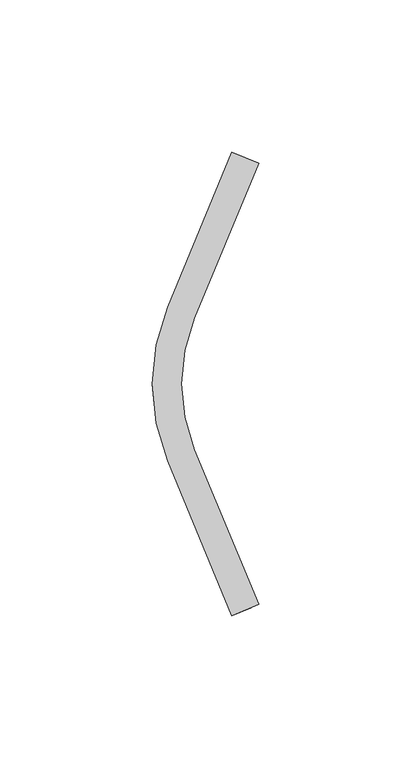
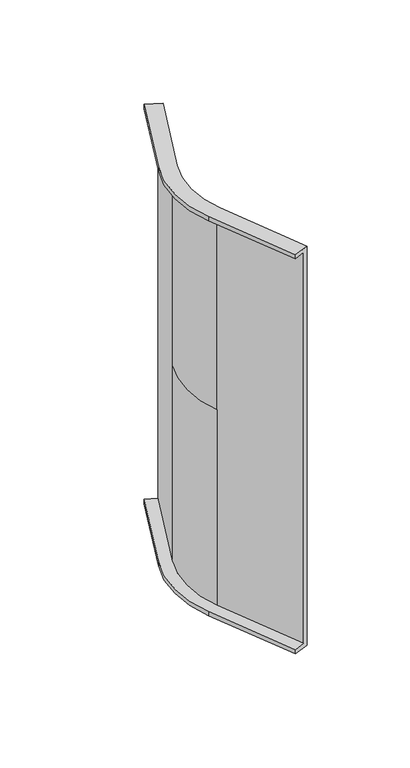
"""IFC4 building model written with IfcOpenShell, lengths in millimetres: cable carrier fitting geometry, CCT_Hyperline_FBTR-IRS45-CVR Крышка на вертикальный угол 45° внутренний (вверх) для оптического лотка : Крышка на вертикальный угол 45° внутренний (вверх) для оптического лотка."""

from ifc_helpers import new_model, si_unit, frame, origin, place, context, project, spatial, polyline, circle_curve, source, transform, mapped, element, save
from ifc_brep_helpers import plane_surface, cylinder_surface, revolved_surface, advanced_brep


def cable_carrier_fitting_1e9d4b74(model_context):
    return source(origin(), model_context, "Body", "AdvancedBrep", [
        advanced_brep(
        [(117.653346, 73.3916968, 120.0), (111.1861893, 76.0704808, 120.0), (111.1861893, 76.0704808, 122.54), (120.0, 72.4196809, 122.54), (120.0, 72.4196809, -122.54), (111.1861893, 76.0704808, -122.54), (111.1861893, 76.0704808, -120.0), (117.653346, 73.3916968, -120.0), (90.1386005, 25.2571065, -120.0), (90.1386005, -25.2571065, -120.0), (111.1861893, -76.0704808, -120.0), (117.653346, -73.3916968, -120.0), (96.6057572, -22.5783225, -120.0), (96.6057572, 22.5783225, -120.0), (90.1386005, 25.2571065, -122.54), (98.9524112, 21.6063066, -122.54), (98.9524112, -21.6063066, -122.54), (120.0, -72.4196809, -122.54), (111.1861893, -76.0704808, -122.54), (90.1386005, -25.2571065, -122.54), (98.9524112, 21.6063066, 122.54), (98.9524112, 21.6063066, 0.0), (96.6057572, 22.5783225, 0.0), (96.6057572, 22.5783225, 120.0), (120.0, -72.4196809, 122.54), (111.1861893, -76.0704808, 122.54), (111.1861893, -76.0704808, 120.0), (117.653346, -73.3916968, 120.0), (98.9524112, -21.6063066, 0.0), (96.6057572, -22.5783225, 0.0), (98.9524112, -21.6063066, 122.54), (96.6057572, -22.5783225, 120.0), (90.1386005, -25.2571065, 120.0), (90.1386005, 25.2571065, 120.0), (90.1386005, 25.2571065, 122.54), (90.1386005, -25.2571065, 122.54)],
        [
            (0, 1),
            (1, 2),
            (2, 3),
            (3, 4),
            (4, 5),
            (5, 6),
            (6, 7),
            (7, 0),
            (6, 8),
            (8, 9, circle_curve(frame((151.1146496, 0.0, -120.0), z_axis=(0.0, 0.0, 1.0), x_axis=(-0.9238795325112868, 0.38268343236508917, 0.0)), 66.0)),
            (9, 10),
            (10, 11),
            (11, 12),
            (12, 13, circle_curve(frame((151.1146496, 0.0, -120.0), z_axis=(0.0, 0.0, -1.0), x_axis=(-0.9238795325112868, 0.38268343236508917, 0.0)), 59.0)),
            (13, 7),
            (5, 14),
            (14, 8),
            (4, 15),
            (15, 16, circle_curve(frame((151.1146496, 0.0, -122.54), z_axis=(0.0, 0.0, 1.0), x_axis=(-0.9238795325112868, 0.38268343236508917, 0.0)), 56.46)),
            (16, 17),
            (17, 18),
            (18, 19),
            (19, 14, circle_curve(frame((151.1146496, 0.0, -122.54), z_axis=(0.0, 0.0, -1.0), x_axis=(-0.9238795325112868, 0.38268343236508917, 0.0)), 66.0)),
            (3, 20),
            (20, 21),
            (21, 15),
            (13, 22),
            (22, 23),
            (23, 0),
            (10, 18),
            (17, 24),
            (24, 25),
            (25, 26),
            (26, 27),
            (27, 11),
            (19, 9),
            (21, 28, circle_curve(frame((151.1146496, 0.0, 0.0), z_axis=(0.0, 0.0, 1.0), x_axis=(-0.9238795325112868, 0.38268343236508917, 0.0)), 56.46)),
            (28, 16),
            (12, 29),
            (29, 22, circle_curve(frame((151.1146496, 0.0, 0.0), z_axis=(0.0, 0.0, -1.0), x_axis=(-0.9238795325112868, 0.38268343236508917, 0.0)), 59.0)),
            (28, 30),
            (30, 24),
            (27, 31),
            (31, 29),
            (23, 31, circle_curve(frame((151.1146496, 0.0, 120.0), z_axis=(0.0, 0.0, 1.0), x_axis=(-0.9238795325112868, 0.38268343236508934, 0.0)), 59.0)),
            (26, 32),
            (32, 33, circle_curve(frame((151.1146496, 0.0, 120.0), z_axis=(0.0, 0.0, -1.0), x_axis=(-0.9238795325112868, 0.38268343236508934, 0.0)), 66.0)),
            (33, 1),
            (33, 34),
            (34, 2),
            (34, 35, circle_curve(frame((151.1146496, 0.0, 122.54), z_axis=(0.0, 0.0, 1.0), x_axis=(-0.9238795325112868, 0.38268343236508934, 0.0)), 66.0)),
            (35, 25),
            (30, 20, circle_curve(frame((151.1146496, 0.0, 122.54), z_axis=(0.0, 0.0, -1.0), x_axis=(-0.9238795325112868, 0.38268343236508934, 0.0)), 56.46)),
            (32, 35),
        ],
        [
            plane_surface(frame((115.8055869, 74.1570637, -55.0), z_axis=(0.38268343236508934, 0.923879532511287, 0.0), x_axis=(0.0, 0.0, 1.0))),
            plane_surface(frame((111.1861893, 76.0704808, -120.0), z_axis=(0.0, 0.0, 1.0), x_axis=(-0.3826834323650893, -0.923879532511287, 0.0))),
            plane_surface(frame((111.1861893, 76.0704808, -122.54), z_axis=(-0.923879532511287, 0.3826834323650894, 0.0), x_axis=(-0.3826834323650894, -0.923879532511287, 0.0))),
            plane_surface(frame((120.0, 72.4196809, -122.54), z_axis=(0.0, 0.0, -1.0), x_axis=(-0.38268343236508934, -0.923879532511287, 0.0))),
            plane_surface(frame((120.0, 72.4196809, 0.0), z_axis=(0.923879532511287, -0.3826834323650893, 0.0), x_axis=(-0.3826834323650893, -0.923879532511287, 0.0))),
            plane_surface(frame((117.653346, 73.3916968, -120.0), z_axis=(-0.923879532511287, 0.3826834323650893, 0.0), x_axis=(-0.3826834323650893, -0.923879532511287, 0.0))),
            plane_surface(frame((115.8055869, -74.1570637, -55.0), z_axis=(0.38268343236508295, -0.9238795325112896, 0.0), x_axis=(0.0, 0.0, 1.0))),
            cylinder_surface(frame((151.1146496, 0.0, -55.0), z_axis=(0.0, 0.0, 1.0), x_axis=(-0.9238795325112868, 0.38268343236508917, 0.0)), 66.0),
            revolved_surface(polyline([(98.95241119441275, 21.606306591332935, 0.0), (98.95241119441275, 21.606306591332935, -122.54)]), (151.1146496, 0.0, -55.0), (0.0, 0.0, 1.0)),
            cylinder_surface(frame((151.1146496, 0.0, -55.0), z_axis=(0.0, 0.0, 1.0), x_axis=(-0.9238795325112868, 0.38268343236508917, 0.0)), 59.0),
            plane_surface(frame((90.1386005, -25.2571065, -122.54), z_axis=(-0.9238795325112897, -0.3826834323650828, 0.0), x_axis=(0.3826834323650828, -0.9238795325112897, 0.0))),
            plane_surface(frame((98.9524112, -21.6063066, 0.0), z_axis=(0.9238795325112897, 0.3826834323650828, 0.0), x_axis=(0.3826834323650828, -0.9238795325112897, 0.0))),
            plane_surface(frame((96.6057572, -22.5783225, -120.0), z_axis=(-0.9238795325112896, -0.382683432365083, 0.0), x_axis=(0.382683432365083, -0.9238795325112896, 0.0))),
            plane_surface(frame((117.653346, 73.3916968, 120.0), z_axis=(0.0, 0.0, -1.0), x_axis=(-0.3826834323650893, -0.923879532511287, 0.0))),
            plane_surface(frame((111.1861893, 76.0704808, 120.0), z_axis=(-0.923879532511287, 0.3826834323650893, 0.0), x_axis=(-0.3826834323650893, -0.923879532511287, 0.0))),
            plane_surface(frame((111.1861893, 76.0704808, 122.54), z_axis=(0.0, 0.0, 1.0), x_axis=(-0.3826834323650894, -0.923879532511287, 0.0))),
            cylinder_surface(frame((151.1146496, 0.0, 60.0), z_axis=(0.0, 0.0, 1.0), x_axis=(-0.9238795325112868, 0.38268343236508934, 0.0)), 66.0),
            revolved_surface(polyline([(98.95241119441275, 21.606306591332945, 122.54), (98.95241119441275, 21.606306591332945, 0.0)]), (151.1146496, 0.0, 60.0), (0.0, 0.0, 1.0)),
            cylinder_surface(frame((151.1146496, 0.0, 60.0), z_axis=(0.0, 0.0, 1.0), x_axis=(-0.9238795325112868, 0.38268343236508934, 0.0)), 59.0),
            plane_surface(frame((90.1386005, -25.2571065, 120.0), z_axis=(-0.9238795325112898, -0.3826834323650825, 0.0), x_axis=(0.3826834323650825, -0.9238795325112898, 0.0))),
        ],
        [
            (0, [[1, 2, 3, 4, 5, 6, 7, 8]]),
            (1, [[-7, 9, 10, 11, 12, 13, 14, 15]]),
            (2, [[-6, 16, 17, -9]]),
            (3, [[-5, 18, 19, 20, 21, 22, 23, -16]]),
            (4, [[-4, 24, 25, 26, -18]]),
            (5, [[-8, -15, 27, 28, 29]]),
            (6, [[-12, 30, -21, 31, 32, 33, 34, 35]]),
            (7, [[-10, -17, -23, 36]]),
            (8, [[-19, -26, 37, 38]]),
            (9, [[-14, 39, 40, -27]]),
            (10, [[-11, -36, -22, -30]]),
            (11, [[-31, -20, -38, 41, 42]]),
            (12, [[-13, -35, 43, 44, -39]]),
            (13, [[-1, -29, 45, -43, -34, 46, 47, 48]]),
            (14, [[-2, -48, 49, 50]]),
            (15, [[-3, -50, 51, 52, -32, -42, 53, -24]]),
            (16, [[-47, 54, -51, -49]]),
            (17, [[-53, -41, -37, -25]]),
            (18, [[-45, -28, -40, -44]]),
            (19, [[-46, -33, -52, -54]]),
        ],
    ),
    ])


if __name__ == "__main__":
    model = new_model("IFC4")
    model_context = context("Model", 3, world=origin())
    ifc_project = project(units=[si_unit("LENGTHUNIT", "METRE", prefix="MILLI")], contexts=[model_context])
    site = spatial("IfcSite", under=ifc_project)
    building = spatial("IfcBuilding", under=site)
    placement = place(None, origin())
    cable_carrier_fitting_shape = cable_carrier_fitting_1e9d4b74(model_context)
    element("IfcCableCarrierFitting", 1, ObjectType="CCT_Hyperline_FBTR-IRS45-CVR Крышка на вертикальный угол 45° внутренний (вверх) для оптического лотка : Крышка на вертикальный угол 45° внутренний (вверх) для оптического лотка", at=placement, inside=building, context=model_context, shape_type="MappedRepresentation", body=[
        mapped(cable_carrier_fitting_shape, transform((0.0, 0.0, 0.0), x_axis=(1.0, 0.0, 0.0), y_axis=(0.0, 1.0, 0.0), z_axis=(0.0, 0.0, 1.0))),
    ])
    save(model, "model.ifc")
